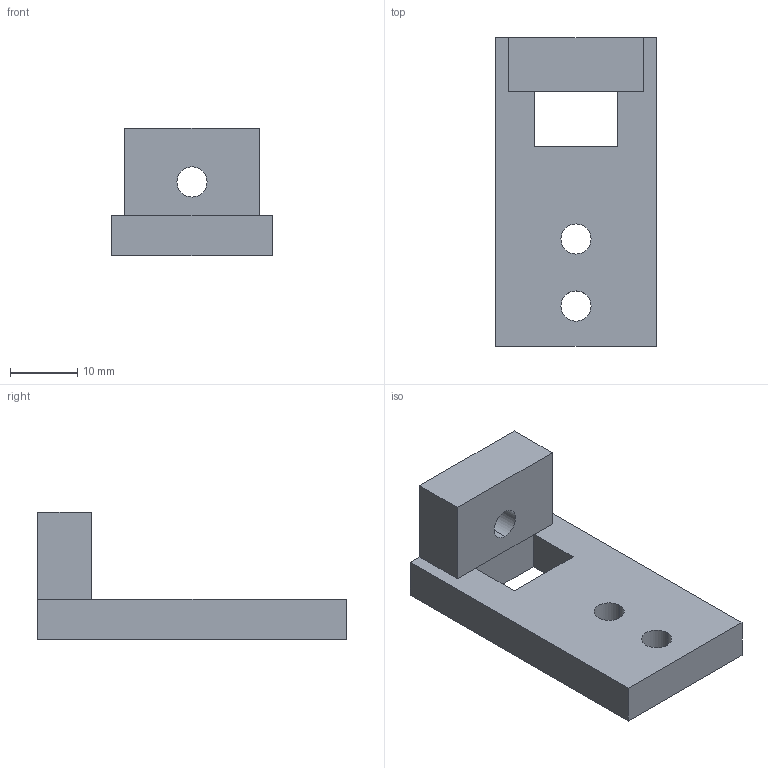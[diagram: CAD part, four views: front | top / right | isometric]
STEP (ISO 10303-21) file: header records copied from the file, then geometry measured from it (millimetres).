
FILE_DESCRIPTION (( 'STEP AP203' ), '1' );
FILE_NAME ('08_tx_fixed_shoe.step', '2026-10-07T08:36:42', ( '' ), ( '' ), 'SwSTEP 2.0', 'SolidWorks 2025', '' );
FILE_SCHEMA (( 'CONFIG_CONTROL_DESIGN' ));
Length unit declared in the file: millimetre
Products named in the file (1): 08_tx_fixed_shoe
Bounding box: 24 x 46 x 19 mm (x, y, z)
Volume: 7761 mm3; surface area: 4009.6 mm2
Topology: 1 solids, 1 shells, 21 faces, 58 edges, 38 vertices
Faces by surface type: plane 15, cylinder 6
Entity records: 761 total; most frequent: CARTESIAN_POINT 118, ORIENTED_EDGE 116, DIRECTION 114, EDGE_CURVE 58, LINE 46, VECTOR 46, VERTEX_POINT 38, AXIS2_PLACEMENT_3D 34
